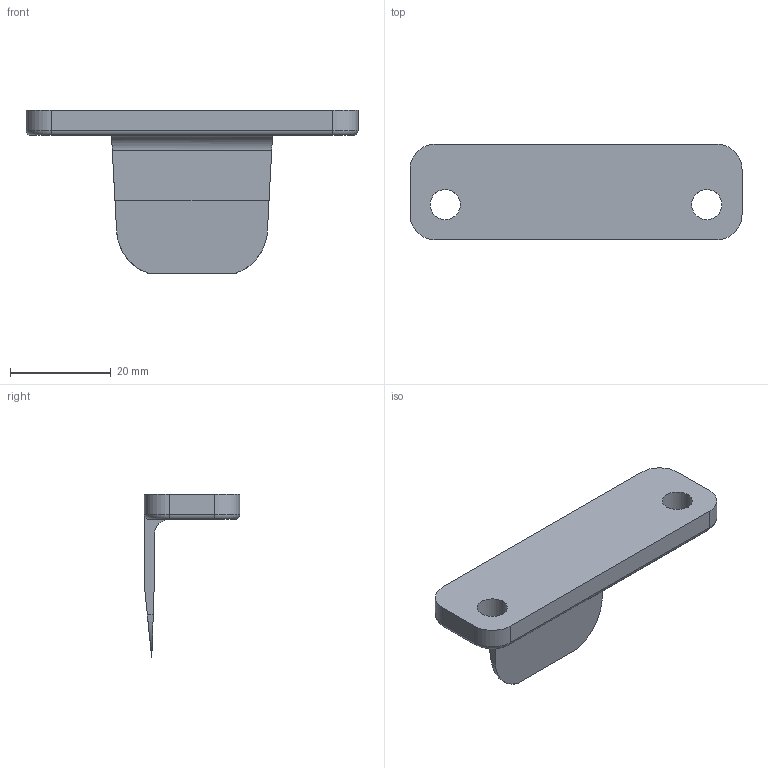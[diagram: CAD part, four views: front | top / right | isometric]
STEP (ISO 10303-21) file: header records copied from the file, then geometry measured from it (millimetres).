
FILE_DESCRIPTION (( 'STEP AP214' ), '1' );
FILE_NAME ('L19170-bouchon_guide.step', '2024-12-03T16:23:19', ( '' ), ( '' ), 'SwSTEP 2.0', 'SolidWorks 2023', '' );
FILE_SCHEMA (( 'AUTOMOTIVE_DESIGN' ));
Length unit declared in the file: millimetre
Products named in the file (1): L19170-bouchon_guide
Bounding box: 66 x 19 x 32.5 mm (x, y, z)
Volume: 7157.8 mm3; surface area: 4901 mm2
Topology: 1 solids, 1 shells, 29 faces, 75 edges, 48 vertices
Faces by surface type: cylinder 14, plane 11, torus 4
Full cylindrical faces by diameter (mm): 6 x2
Entity records: 888 total; most frequent: CARTESIAN_POINT 171, DIRECTION 147, ORIENTED_EDGE 142, EDGE_CURVE 71, AXIS2_PLACEMENT_3D 54, VERTEX_POINT 46, LINE 39, VECTOR 39
